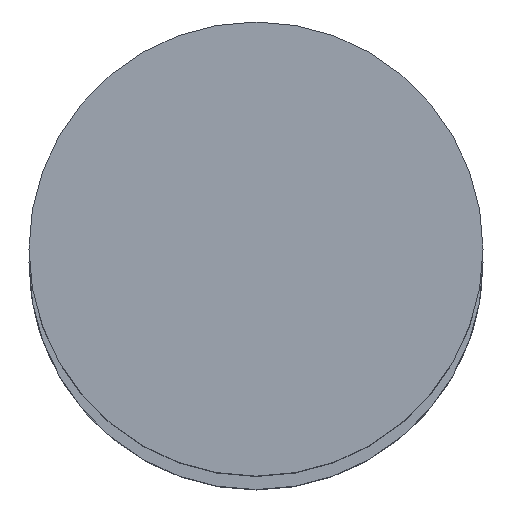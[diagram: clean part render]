
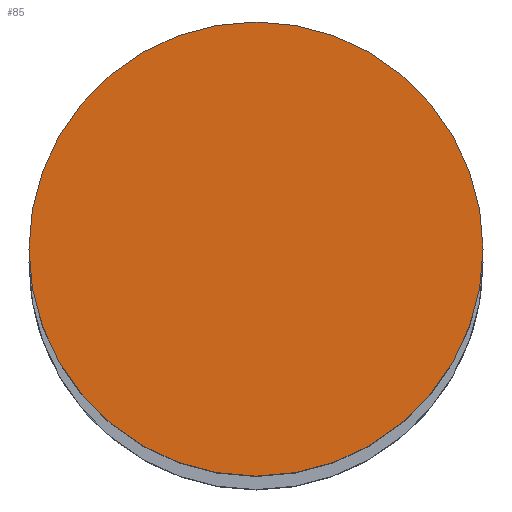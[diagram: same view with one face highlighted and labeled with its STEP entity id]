
A CAD part, top view. The second image highlights one B-rep face of the part: STEP entity #85.
In plain terms, the highlighted planar face has unit normal (0, 0, 1).
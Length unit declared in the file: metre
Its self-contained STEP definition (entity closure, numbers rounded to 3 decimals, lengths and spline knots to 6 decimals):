
#85=ADVANCED_FACE('56:4857',(#165),#166,.F.);
#165=FACE_OUTER_BOUND('',#244,.T.);
#166=PLANE('',#245);
#244=EDGE_LOOP('',(#390,#391));
#245=AXIS2_PLACEMENT_3D('',#392,#393,#394);
#390=ORIENTED_EDGE('',*,*,#433,.F.);
#391=ORIENTED_EDGE('',*,*,#478,.F.);
#392=CARTESIAN_POINT('',(-0.000092,0.000095,3.264));
#393=DIRECTION('',(0.0,0.0,-1.0));
#394=DIRECTION('',(1.0,0.0,0.0));
#433=EDGE_CURVE('27:1418',#505,#501,#507,.T.);
#478=EDGE_CURVE('',#501,#505,#572,.T.);
#501=VERTEX_POINT('',#607);
#505=VERTEX_POINT('',#612);
#507=CIRCLE('',#615,0.0155);
#572=CIRCLE('',#694,0.0155);
#607=CARTESIAN_POINT('',(0.015408,0.000095,3.264));
#612=CARTESIAN_POINT('',(-0.015592,0.000095,3.264));
#615=AXIS2_PLACEMENT_3D('',#736,#737,#738);
#694=AXIS2_PLACEMENT_3D('',#801,#802,#803);
#736=CARTESIAN_POINT('',(-0.000092,0.000095,3.264));
#737=DIRECTION('',(0.0,0.0,-1.0));
#738=DIRECTION('',(1.0,0.0,0.0));
#801=CARTESIAN_POINT('',(-0.000092,0.000095,3.264));
#802=DIRECTION('',(0.0,0.0,-1.0));
#803=DIRECTION('',(1.0,0.0,0.0));
